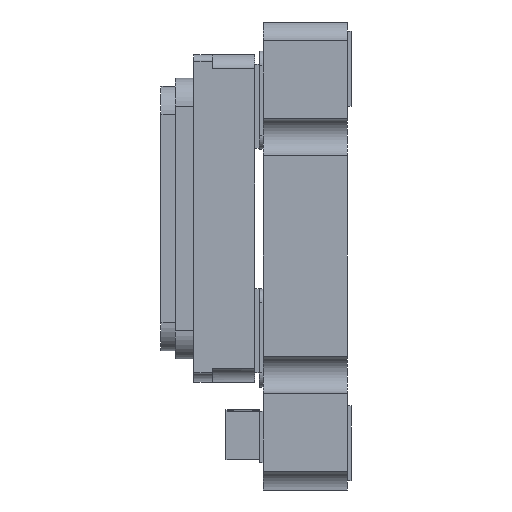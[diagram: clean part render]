
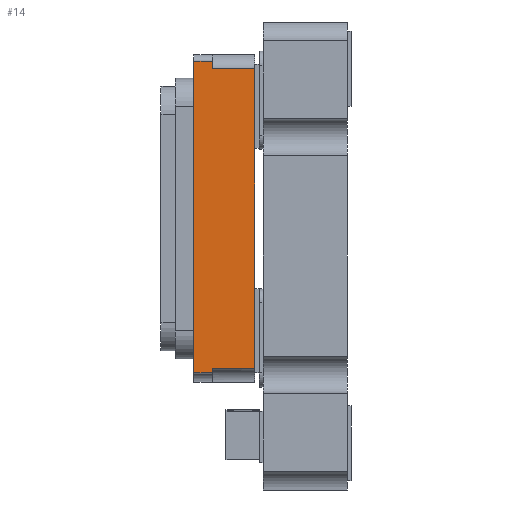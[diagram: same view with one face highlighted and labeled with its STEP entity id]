
A CAD part, left-side view. The second image highlights one B-rep face of the part: STEP entity #14.
In plain terms, the highlighted planar face has unit normal (-1, 0, 0).
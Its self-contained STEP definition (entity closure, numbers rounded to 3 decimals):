
#14 = ADVANCED_FACE ( 'NONE', ( #2041 ), #6698, .F. ) ;
#48 = DIRECTION ( 'NONE',  ( 0., 0., 1. ) ) ;
#164 = ORIENTED_EDGE ( 'NONE', *, *, #6282, .F. ) ;
#351 = VERTEX_POINT ( 'NONE', #3244 ) ;
#599 = VERTEX_POINT ( 'NONE', #7169 ) ;
#702 = EDGE_LOOP ( 'NONE', ( #3406, #4628, #8550, #7477, #164, #1522, #8510, #5184 ) ) ;
#710 = LINE ( 'NONE', #6233, #6243 ) ;
#715 = CARTESIAN_POINT ( 'NONE',  ( -3., 0., 1.75 ) ) ;
#809 = AXIS2_PLACEMENT_3D ( 'NONE', #7470, #2544, #1960 ) ;
#936 = VECTOR ( 'NONE', #3794, 1000. ) ;
#1321 = DIRECTION ( 'NONE',  ( 0., -1., 0. ) ) ;
#1368 = LINE ( 'NONE', #715, #2100 ) ;
#1522 = ORIENTED_EDGE ( 'NONE', *, *, #6920, .T. ) ;
#1616 = EDGE_CURVE ( 'NONE', #599, #2877, #7756, .T. ) ;
#1643 = CARTESIAN_POINT ( 'NONE',  ( -3., 0.45, -1.6 ) ) ;
#1680 = LINE ( 'NONE', #5838, #936 ) ;
#1960 = DIRECTION ( 'NONE',  ( 0., 0., -1. ) ) ;
#2041 = FACE_OUTER_BOUND ( 'NONE', #702, .T. ) ;
#2100 = VECTOR ( 'NONE', #7732, 1000. ) ;
#2105 = LINE ( 'NONE', #5582, #8384 ) ;
#2544 = DIRECTION ( 'NONE',  ( 1., 0., 0. ) ) ;
#2634 = VECTOR ( 'NONE', #48, 1000. ) ;
#2709 = VERTEX_POINT ( 'NONE', #3056 ) ;
#2786 = VERTEX_POINT ( 'NONE', #6800 ) ;
#2877 = VERTEX_POINT ( 'NONE', #3622 ) ;
#3056 = CARTESIAN_POINT ( 'NONE',  ( -3., 0.45, 1.679 ) ) ;
#3244 = CARTESIAN_POINT ( 'NONE',  ( -3., 0., -1.6 ) ) ;
#3290 = VERTEX_POINT ( 'NONE', #1643 ) ;
#3305 = LINE ( 'NONE', #8197, #2634 ) ;
#3406 = ORIENTED_EDGE ( 'NONE', *, *, #5757, .T. ) ;
#3424 = DIRECTION ( 'NONE',  ( 0., -1., 0. ) ) ;
#3622 = CARTESIAN_POINT ( 'NONE',  ( -3., 0.45, 1.6 ) ) ;
#3794 = DIRECTION ( 'NONE',  ( 0., 0., 1. ) ) ;
#3875 = VERTEX_POINT ( 'NONE', #8188 ) ;
#3937 = VECTOR ( 'NONE', #1321, 1000. ) ;
#4628 = ORIENTED_EDGE ( 'NONE', *, *, #1616, .T. ) ;
#4743 = LINE ( 'NONE', #7419, #7830 ) ;
#4769 = VERTEX_POINT ( 'NONE', #6874 ) ;
#4851 = LINE ( 'NONE', #7605, #3937 ) ;
#5184 = ORIENTED_EDGE ( 'NONE', *, *, #8733, .T. ) ;
#5582 = CARTESIAN_POINT ( 'NONE',  ( -3., 0.45, 1.679 ) ) ;
#5757 = EDGE_CURVE ( 'NONE', #351, #599, #1368, .T. ) ;
#5838 = CARTESIAN_POINT ( 'NONE',  ( -3., 0.65, 1.679 ) ) ;
#6188 = DIRECTION ( 'NONE',  ( 0., -1., 0. ) ) ;
#6233 = CARTESIAN_POINT ( 'NONE',  ( -3., 0.65, 1.679 ) ) ;
#6243 = VECTOR ( 'NONE', #6188, 1000. ) ;
#6282 = EDGE_CURVE ( 'NONE', #2786, #4769, #1680, .T. ) ;
#6698 = PLANE ( 'NONE',  #809 ) ;
#6800 = CARTESIAN_POINT ( 'NONE',  ( -3., 0.65, -1.65 ) ) ;
#6874 = CARTESIAN_POINT ( 'NONE',  ( -3., 0.65, 1.679 ) ) ;
#6920 = EDGE_CURVE ( 'NONE', #2786, #3875, #4743, .T. ) ;
#6993 = CARTESIAN_POINT ( 'NONE',  ( -3., 0., 1.6 ) ) ;
#7169 = CARTESIAN_POINT ( 'NONE',  ( -3., 0., 1.6 ) ) ;
#7208 = EDGE_CURVE ( 'NONE', #3875, #3290, #2105, .T. ) ;
#7372 = VECTOR ( 'NONE', #8383, 1000. ) ;
#7419 = CARTESIAN_POINT ( 'NONE',  ( -3., 0.65, -1.65 ) ) ;
#7470 = CARTESIAN_POINT ( 'NONE',  ( -3., 0.45, 1.75 ) ) ;
#7477 = ORIENTED_EDGE ( 'NONE', *, *, #8019, .F. ) ;
#7593 = EDGE_CURVE ( 'NONE', #2877, #2709, #3305, .T. ) ;
#7605 = CARTESIAN_POINT ( 'NONE',  ( -3., 0., -1.6 ) ) ;
#7732 = DIRECTION ( 'NONE',  ( 0., 0., 1. ) ) ;
#7756 = LINE ( 'NONE', #6993, #7372 ) ;
#7830 = VECTOR ( 'NONE', #3424, 1000. ) ;
#8019 = EDGE_CURVE ( 'NONE', #4769, #2709, #710, .T. ) ;
#8188 = CARTESIAN_POINT ( 'NONE',  ( -3., 0.45, -1.65 ) ) ;
#8197 = CARTESIAN_POINT ( 'NONE',  ( -3., 0.45, 1.679 ) ) ;
#8204 = DIRECTION ( 'NONE',  ( 0., 0., 1. ) ) ;
#8383 = DIRECTION ( 'NONE',  ( 0., 1., 0. ) ) ;
#8384 = VECTOR ( 'NONE', #8204, 1000. ) ;
#8510 = ORIENTED_EDGE ( 'NONE', *, *, #7208, .T. ) ;
#8550 = ORIENTED_EDGE ( 'NONE', *, *, #7593, .T. ) ;
#8733 = EDGE_CURVE ( 'NONE', #3290, #351, #4851, .T. ) ;
